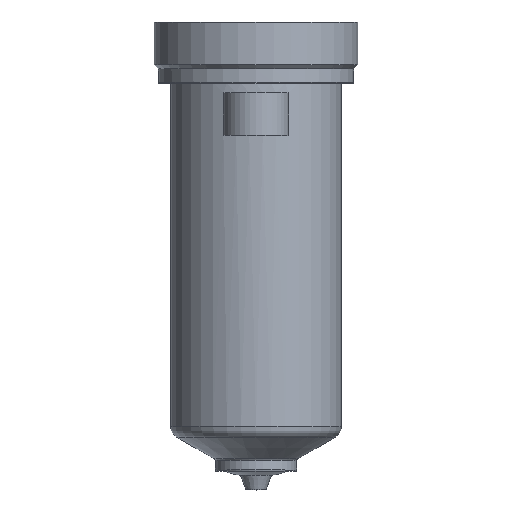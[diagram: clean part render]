
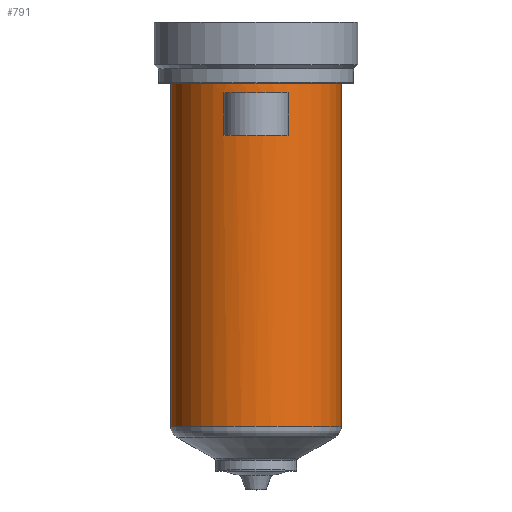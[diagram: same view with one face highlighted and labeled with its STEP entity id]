
A CAD part, top view. The second image highlights one B-rep face of the part: STEP entity #791.
In plain terms, the highlighted cylindrical face has radius 21 mm (diameter 42 mm), a partial arc.
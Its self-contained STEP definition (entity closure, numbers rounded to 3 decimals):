
#199=DIRECTION('',(0.,-1.,0.));
#200=VECTOR('',#199,84.428);
#201=CARTESIAN_POINT('',(21.,0.,0.));
#202=LINE('',#201,#200);
#203=CARTESIAN_POINT('',(0.,-84.428,0.));
#204=DIRECTION('',(0.,1.,0.));
#205=DIRECTION('',(-1.,0.,0.));
#206=AXIS2_PLACEMENT_3D('',#203,#204,#205);
#208=DIRECTION('',(0.,1.,0.));
#209=VECTOR('',#208,84.428);
#210=CARTESIAN_POINT('',(-21.,-84.428,0.));
#211=LINE('',#210,#209);
#212=CARTESIAN_POINT('',(0.,0.,0.));
#213=DIRECTION('',(0.,1.,0.));
#214=DIRECTION('',(-1.,0.,0.));
#215=AXIS2_PLACEMENT_3D('',#212,#213,#214);
#361=DIRECTION('',(0.,-1.,0.));
#362=VECTOR('',#361,10.5);
#363=CARTESIAN_POINT('',(-8.,-2.5,19.416));
#364=LINE('',#363,#362);
#365=CARTESIAN_POINT('',(0.,-13.,0.));
#366=DIRECTION('',(0.,1.,0.));
#367=DIRECTION('',(-0.381,0.,0.925));
#368=AXIS2_PLACEMENT_3D('',#365,#366,#367);
#391=CARTESIAN_POINT('',(0.,-2.5,0.));
#392=DIRECTION('',(0.,-1.,0.));
#393=DIRECTION('',(0.381,0.,0.925));
#394=AXIS2_PLACEMENT_3D('',#391,#392,#393);
#409=DIRECTION('',(0.,-1.,0.));
#410=VECTOR('',#409,10.5);
#411=CARTESIAN_POINT('',(8.,-2.5,19.416));
#412=LINE('',#411,#410);
#470=CARTESIAN_POINT('',(-21.,0.,0.));
#471=CARTESIAN_POINT('',(21.,0.,0.));
#472=VERTEX_POINT('',#470);
#473=VERTEX_POINT('',#471);
#482=CARTESIAN_POINT('',(-8.,-2.5,19.416));
#483=VERTEX_POINT('',#482);
#484=CARTESIAN_POINT('',(8.,-2.5,19.416));
#485=VERTEX_POINT('',#484);
#522=CARTESIAN_POINT('',(21.,-84.428,0.));
#523=VERTEX_POINT('',#522);
#532=CARTESIAN_POINT('',(-21.,-84.428,0.));
#533=VERTEX_POINT('',#532);
#550=CARTESIAN_POINT('',(-8.,-13.,19.416));
#551=CARTESIAN_POINT('',(8.,-13.,19.416));
#552=VERTEX_POINT('',#550);
#553=VERTEX_POINT('',#551);
#769=CARTESIAN_POINT('',(0.,16.4,0.));
#770=DIRECTION('',(0.,-1.,0.));
#771=DIRECTION('',(-1.,0.,0.));
#772=AXIS2_PLACEMENT_3D('',#769,#770,#771);
#773=CYLINDRICAL_SURFACE('',#772,21.);
#774=ORIENTED_EDGE('',*,*,#763,.T.);
#776=ORIENTED_EDGE('',*,*,#775,.F.);
#777=ORIENTED_EDGE('',*,*,#759,.T.);
#778=ORIENTED_EDGE('',*,*,#749,.T.);
#779=EDGE_LOOP('',(#774,#776,#777,#778));
#780=FACE_OUTER_BOUND('',#779,.F.);
#782=ORIENTED_EDGE('',*,*,#781,.T.);
#784=ORIENTED_EDGE('',*,*,#783,.T.);
#786=ORIENTED_EDGE('',*,*,#785,.F.);
#788=ORIENTED_EDGE('',*,*,#787,.T.);
#789=EDGE_LOOP('',(#782,#784,#786,#788));
#790=FACE_BOUND('',#789,.F.);
#791=ADVANCED_FACE('',(#780,#790),#773,.T.);
#207=CIRCLE('',#206,21.);
#216=CIRCLE('',#215,21.);
#369=CIRCLE('',#368,21.);
#395=CIRCLE('',#394,21.);
#749=EDGE_CURVE('',#472,#473,#216,.T.);
#759=EDGE_CURVE('',#533,#472,#211,.T.);
#763=EDGE_CURVE('',#473,#523,#202,.T.);
#775=EDGE_CURVE('',#533,#523,#207,.T.);
#781=EDGE_CURVE('',#483,#552,#364,.T.);
#783=EDGE_CURVE('',#552,#553,#369,.T.);
#785=EDGE_CURVE('',#485,#553,#412,.T.);
#787=EDGE_CURVE('',#485,#483,#395,.T.);
